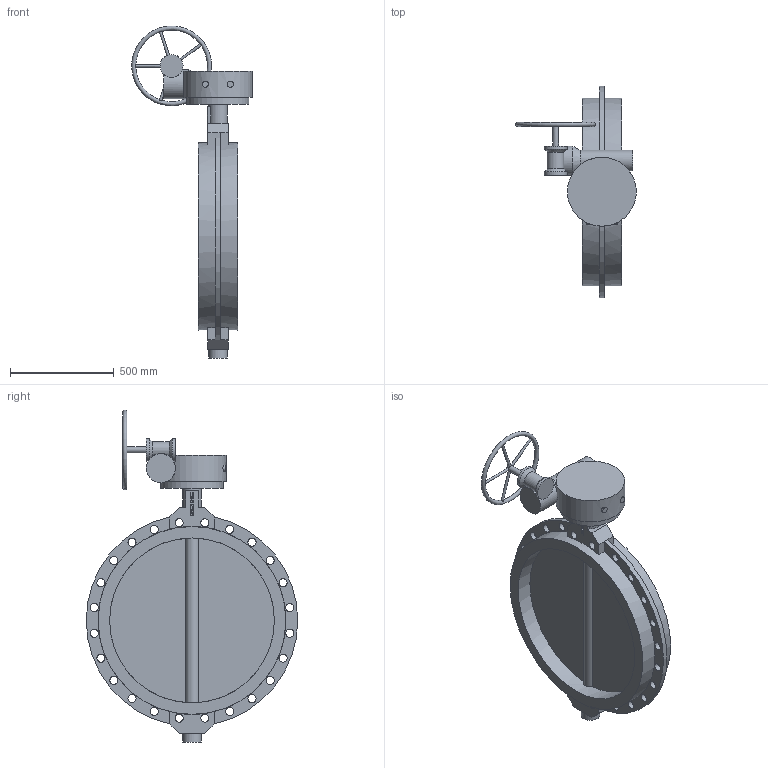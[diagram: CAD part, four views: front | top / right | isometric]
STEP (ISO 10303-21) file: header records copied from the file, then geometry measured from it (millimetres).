
FILE_DESCRIPTION(('STEP AP203'), '1');
FILE_NAME('青蜮铕 017W.ZS DN800 PN16 疱潴牝铕', '', ('UNSPECIFIED'), ('UNSPECIFIED'), 'ASCON STEP Converter 1.6', 'ASCON Math Kernel', '');
FILE_SCHEMA(('CONFIG_CONTROL_DESIGN'));
Length unit declared in the file: millimetre
Bounding box: 581.49 x 1020 x 1600.29 mm (x, y, z)
Volume: 69090521.5 mm3; surface area: 3341945.6 mm2
Topology: 1 solids, 1 shells, 762 faces, 2136 edges, 1421 vertices
Faces by surface type: cylinder 565, plane 193, cone 3, torus 1
Full cylindrical faces by diameter (mm): 12 x5, 14 x8, 18 x8, 28 x1, 30 x2, 39 x24, 90 x2, 100 x1, 110 x2, 140 x1, 300 x1, 332 x1, 794.7 x2, 905 x2
Entity records: 33975 total; most frequent: CARTESIAN_POINT 7248, DIRECTION 4701, ORIENTED_EDGE 4146, EDGE_CURVE 2073, AXIS2_PLACEMENT_3D 1895, VERTEX_POINT 1420, CIRCLE 1132, EDGE_LOOP 925
